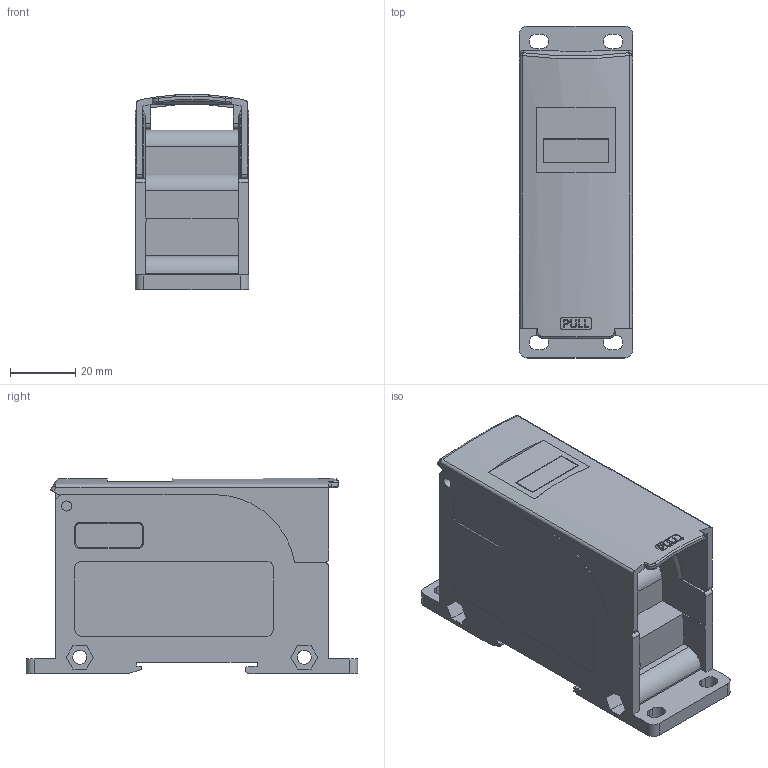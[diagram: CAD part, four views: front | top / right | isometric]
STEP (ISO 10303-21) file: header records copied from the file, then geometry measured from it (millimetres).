
FILE_DESCRIPTION(/* description */ (''),/* implementation_level */ '2;1');
FILE_NAME(/* name */ '',/* time_stamp */ '2016-09-21T13:33:55+09:00',/* author */ (''),/* organization */ (''),/* preprocessor_version */ 'ST-DEVELOPER v11',/* originating_system */ 'SIEMENS UGS NX 6.0',/* authorisation */ '');
FILE_SCHEMA (('CONFIG_CONTROL_DESIGN'));
Length unit declared in the file: millimetre
Products named in the file (1): ksleA0B3tujs
Bounding box: 34.8 x 102 x 59.99 mm (x, y, z)
Volume: 98886.1 mm3; surface area: 32102 mm2
Topology: 1 solids, 1 shells, 254 faces, 698 edges, 462 vertices
Faces by surface type: plane 176, cylinder 57, cone 6, extrusion 6, bspline 5, sphere 2, torus 2
Full cylindrical faces by diameter (mm): 3.1 x2, 4.3 x2
Entity records: 8691 total; most frequent: CARTESIAN_POINT 2040, ORIENTED_EDGE 1396, DIRECTION 1298, EDGE_CURVE 698, VECTOR 524, LINE 518, VERTEX_POINT 469, AXIS2_PLACEMENT_3D 387
